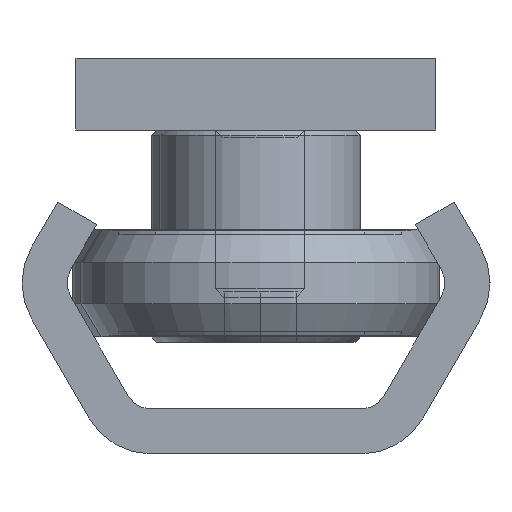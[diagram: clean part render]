
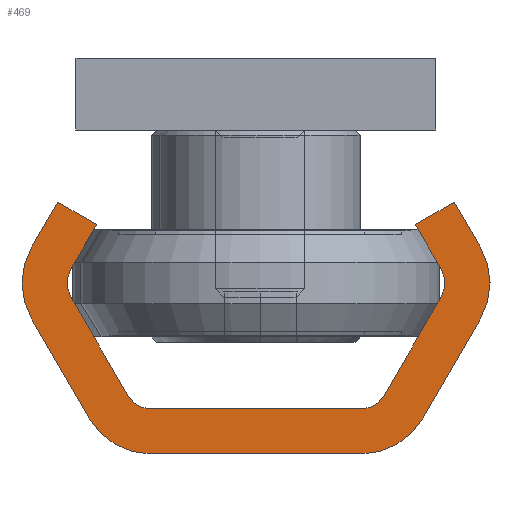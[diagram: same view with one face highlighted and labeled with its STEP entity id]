
A CAD part, left-side view. The second image highlights one B-rep face of the part: STEP entity #469.
In plain terms, the highlighted planar face has unit normal (-1, 0, 0).
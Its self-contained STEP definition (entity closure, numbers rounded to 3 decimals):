
#469 = ADVANCED_FACE( '', ( #1011 ), #1012, .F. );
#1011 = FACE_OUTER_BOUND( '', #1803, .T. );
#1012 = PLANE( '', #1804 );
#1803 = EDGE_LOOP( '', ( #2961, #2962, #2963, #2964, #2965, #2966, #2967, #2968, #2969, #2970, #2971, #2972, #2973, #2974, #2975, #2976, #2977, #2978, #2979, #2980 ) );
#1804 = AXIS2_PLACEMENT_3D( '', #2981, #2982, #2983 );
#2961 = ORIENTED_EDGE( '', *, *, #4124, .F. );
#2962 = ORIENTED_EDGE( '', *, *, #3933, .F. );
#2963 = ORIENTED_EDGE( '', *, *, #4125, .F. );
#2964 = ORIENTED_EDGE( '', *, *, #4061, .F. );
#2965 = ORIENTED_EDGE( '', *, *, #4126, .F. );
#2966 = ORIENTED_EDGE( '', *, *, #4009, .F. );
#2967 = ORIENTED_EDGE( '', *, *, #4127, .F. );
#2968 = ORIENTED_EDGE( '', *, *, #4128, .T. );
#2969 = ORIENTED_EDGE( '', *, *, #4129, .F. );
#2970 = ORIENTED_EDGE( '', *, *, #4056, .T. );
#2971 = ORIENTED_EDGE( '', *, *, #4130, .F. );
#2972 = ORIENTED_EDGE( '', *, *, #4032, .T. );
#2973 = ORIENTED_EDGE( '', *, *, #4131, .F. );
#2974 = ORIENTED_EDGE( '', *, *, #4132, .T. );
#2975 = ORIENTED_EDGE( '', *, *, #4133, .F. );
#2976 = ORIENTED_EDGE( '', *, *, #3956, .F. );
#2977 = ORIENTED_EDGE( '', *, *, #4052, .F. );
#2978 = ORIENTED_EDGE( '', *, *, #4134, .F. );
#2979 = ORIENTED_EDGE( '', *, *, #4023, .F. );
#2980 = ORIENTED_EDGE( '', *, *, #3896, .F. );
#2981 = CARTESIAN_POINT( '', ( 0., -5.825, -4. ) );
#2982 = DIRECTION( '', ( 1., 0., 0. ) );
#2983 = DIRECTION( '', ( 0., 0., -1. ) );
#3896 = EDGE_CURVE( '', #4436, #4437, #4438, .T. );
#3933 = EDGE_CURVE( '', #4499, #4500, #4501, .T. );
#3956 = EDGE_CURVE( '', #4538, #4539, #4540, .T. );
#4009 = EDGE_CURVE( '', #4621, #4622, #4623, .T. );
#4023 = EDGE_CURVE( '', #4437, #4645, #4646, .T. );
#4032 = EDGE_CURVE( '', #4658, #4659, #4660, .T. );
#4052 = EDGE_CURVE( '', #4693, #4538, #4694, .T. );
#4056 = EDGE_CURVE( '', #4699, #4700, #4701, .T. );
#4061 = EDGE_CURVE( '', #4708, #4709, #4710, .T. );
#4124 = EDGE_CURVE( '', #4500, #4436, #4807, .T. );
#4125 = EDGE_CURVE( '', #4709, #4499, #4808, .T. );
#4126 = EDGE_CURVE( '', #4622, #4708, #4809, .T. );
#4127 = EDGE_CURVE( '', #4810, #4621, #4811, .T. );
#4128 = EDGE_CURVE( '', #4810, #4812, #4813, .T. );
#4129 = EDGE_CURVE( '', #4699, #4812, #4814, .T. );
#4130 = EDGE_CURVE( '', #4658, #4700, #4815, .T. );
#4131 = EDGE_CURVE( '', #4816, #4659, #4817, .T. );
#4132 = EDGE_CURVE( '', #4816, #4818, #4819, .T. );
#4133 = EDGE_CURVE( '', #4539, #4818, #4820, .T. );
#4134 = EDGE_CURVE( '', #4645, #4693, #4821, .T. );
#4436 = VERTEX_POINT( '', #5224 );
#4437 = VERTEX_POINT( '', #5225 );
#4438 = CIRCLE( '', #5226, 4. );
#4499 = VERTEX_POINT( '', #5297 );
#4500 = VERTEX_POINT( '', #5298 );
#4501 = CIRCLE( '', #5299, 4. );
#4538 = VERTEX_POINT( '', #5343 );
#4539 = VERTEX_POINT( '', #5344 );
#4540 = LINE( '', #5345, #5346 );
#4621 = VERTEX_POINT( '', #5440 );
#4622 = VERTEX_POINT( '', #5441 );
#4623 = LINE( '', #5442, #5443 );
#4645 = VERTEX_POINT( '', #5468 );
#4646 = LINE( '', #5469, #5470 );
#4658 = VERTEX_POINT( '', #5485 );
#4659 = VERTEX_POINT( '', #5486 );
#4660 = CIRCLE( '', #5487, 1.5 );
#4693 = VERTEX_POINT( '', #5525 );
#4694 = LINE( '', #5526, #5527 );
#4699 = VERTEX_POINT( '', #5534 );
#4700 = VERTEX_POINT( '', #5535 );
#4701 = CIRCLE( '', #5536, 1.5 );
#4708 = VERTEX_POINT( '', #5545 );
#4709 = VERTEX_POINT( '', #5546 );
#4710 = CIRCLE( '', #5547, 4. );
#4807 = LINE( '', #5662, #5663 );
#4808 = LINE( '', #5664, #5665 );
#4809 = LINE( '', #5666, #5667 );
#4810 = VERTEX_POINT( '', #5668 );
#4811 = LINE( '', #5669, #5670 );
#4812 = VERTEX_POINT( '', #5671 );
#4813 = CIRCLE( '', #5672, 1.5 );
#4814 = LINE( '', #5673, #5674 );
#4815 = LINE( '', #5675, #5676 );
#4816 = VERTEX_POINT( '', #5677 );
#4817 = LINE( '', #5678, #5679 );
#4818 = VERTEX_POINT( '', #5680 );
#4819 = CIRCLE( '', #5681, 1.5 );
#4820 = LINE( '', #5682, #5683 );
#4821 = CIRCLE( '', #5684, 4. );
#5224 = CARTESIAN_POINT( '', ( 0., -5.825, 0. ) );
#5225 = CARTESIAN_POINT( '', ( 0., -9.289, -2. ) );
#5226 = AXIS2_PLACEMENT_3D( '', #6143, #6144, #6145 );
#5297 = CARTESIAN_POINT( '', ( 0., 9.289, -2. ) );
#5298 = CARTESIAN_POINT( '', ( 0., 5.825, 0. ) );
#5299 = AXIS2_PLACEMENT_3D( '', #6201, #6202, #6203 );
#5343 = CARTESIAN_POINT( '', ( 0., -11.021, -14. ) );
#5344 = CARTESIAN_POINT( '', ( 0., -8.856, -12.75 ) );
#5345 = CARTESIAN_POINT( '', ( 0., -11.021, -14. ) );
#5346 = VECTOR( '', #6238, 1000. );
#5440 = CARTESIAN_POINT( '', ( 0., 8.856, -12.75 ) );
#5441 = CARTESIAN_POINT( '', ( 0., 11.021, -14. ) );
#5442 = CARTESIAN_POINT( '', ( 0., 8.856, -12.75 ) );
#5443 = VECTOR( '', #6327, 1000. );
#5468 = CARTESIAN_POINT( '', ( 0., -12.464, -7.5 ) );
#5469 = CARTESIAN_POINT( '', ( 0., -9.289, -2. ) );
#5470 = VECTOR( '', #6349, 1000. );
#5485 = CARTESIAN_POINT( '', ( 0., -5.825, -2.5 ) );
#5486 = CARTESIAN_POINT( '', ( 0., -7.124, -3.25 ) );
#5487 = AXIS2_PLACEMENT_3D( '', #6359, #6360, #6361 );
#5525 = CARTESIAN_POINT( '', ( 0., -12.464, -11.5 ) );
#5526 = CARTESIAN_POINT( '', ( 0., -12.464, -11.5 ) );
#5527 = VECTOR( '', #6397, 1000. );
#5534 = CARTESIAN_POINT( '', ( 0., 7.124, -3.25 ) );
#5535 = CARTESIAN_POINT( '', ( 0., 5.825, -2.5 ) );
#5536 = AXIS2_PLACEMENT_3D( '', #6400, #6401, #6402 );
#5545 = CARTESIAN_POINT( '', ( 0., 12.464, -11.5 ) );
#5546 = CARTESIAN_POINT( '', ( 0., 12.464, -7.5 ) );
#5547 = AXIS2_PLACEMENT_3D( '', #6408, #6409, #6410 );
#5662 = CARTESIAN_POINT( '', ( 0., 5.825, 0. ) );
#5663 = VECTOR( '', #6516, 1000. );
#5664 = CARTESIAN_POINT( '', ( 0., 12.464, -7.5 ) );
#5665 = VECTOR( '', #6517, 1000. );
#5666 = CARTESIAN_POINT( '', ( 0., 11.021, -14. ) );
#5667 = VECTOR( '', #6518, 1000. );
#5668 = CARTESIAN_POINT( '', ( 0., 10.299, -10.25 ) );
#5669 = CARTESIAN_POINT( '', ( 0., 10.299, -10.25 ) );
#5670 = VECTOR( '', #6519, 1000. );
#5671 = CARTESIAN_POINT( '', ( 0., 10.299, -8.75 ) );
#5672 = AXIS2_PLACEMENT_3D( '', #6520, #6521, #6522 );
#5673 = CARTESIAN_POINT( '', ( 0., 7.124, -3.25 ) );
#5674 = VECTOR( '', #6523, 1000. );
#5675 = CARTESIAN_POINT( '', ( 0., -5.825, -2.5 ) );
#5676 = VECTOR( '', #6524, 1000. );
#5677 = CARTESIAN_POINT( '', ( 0., -10.299, -8.75 ) );
#5678 = CARTESIAN_POINT( '', ( 0., -10.299, -8.75 ) );
#5679 = VECTOR( '', #6525, 1000. );
#5680 = CARTESIAN_POINT( '', ( 0., -10.299, -10.25 ) );
#5681 = AXIS2_PLACEMENT_3D( '', #6526, #6527, #6528 );
#5682 = CARTESIAN_POINT( '', ( 0., -8.856, -12.75 ) );
#5683 = VECTOR( '', #6529, 1000. );
#5684 = AXIS2_PLACEMENT_3D( '', #6530, #6531, #6532 );
#6143 = CARTESIAN_POINT( '', ( 0., -5.825, -4. ) );
#6144 = DIRECTION( '', ( 1., 0., 0. ) );
#6145 = DIRECTION( '', ( 0., 0., -1. ) );
#6201 = CARTESIAN_POINT( '', ( 0., 5.825, -4. ) );
#6202 = DIRECTION( '', ( 1., 0., 0. ) );
#6203 = DIRECTION( '', ( 0., 0., -1. ) );
#6238 = DIRECTION( '', ( 0., 0.866, 0.5 ) );
#6327 = DIRECTION( '', ( 0., 0.866, -0.5 ) );
#6349 = DIRECTION( '', ( 0., -0.5, -0.866 ) );
#6359 = CARTESIAN_POINT( '', ( 0., -5.825, -4. ) );
#6360 = DIRECTION( '', ( 1., 0., 0. ) );
#6361 = DIRECTION( '', ( 0., 0., -1. ) );
#6397 = DIRECTION( '', ( 0., 0.5, -0.866 ) );
#6400 = CARTESIAN_POINT( '', ( 0., 5.825, -4. ) );
#6401 = DIRECTION( '', ( 1., 0., 0. ) );
#6402 = DIRECTION( '', ( 0., 0., -1. ) );
#6408 = CARTESIAN_POINT( '', ( 0., 9., -9.5 ) );
#6409 = DIRECTION( '', ( 1., 0., 0. ) );
#6410 = DIRECTION( '', ( 0., 0., -1. ) );
#6516 = DIRECTION( '', ( 0., -1., 0. ) );
#6517 = DIRECTION( '', ( 0., -0.5, 0.866 ) );
#6518 = DIRECTION( '', ( 0., 0.5, 0.866 ) );
#6519 = DIRECTION( '', ( 0., -0.5, -0.866 ) );
#6520 = CARTESIAN_POINT( '', ( 0., 9., -9.5 ) );
#6521 = DIRECTION( '', ( 1., 0., 0. ) );
#6522 = DIRECTION( '', ( 0., 0., -1. ) );
#6523 = DIRECTION( '', ( 0., 0.5, -0.866 ) );
#6524 = DIRECTION( '', ( 0., 1., 0. ) );
#6525 = DIRECTION( '', ( 0., 0.5, 0.866 ) );
#6526 = CARTESIAN_POINT( '', ( 0., -9., -9.5 ) );
#6527 = DIRECTION( '', ( 1., 0., 0. ) );
#6528 = DIRECTION( '', ( 0., 0., -1. ) );
#6529 = DIRECTION( '', ( 0., -0.5, 0.866 ) );
#6530 = CARTESIAN_POINT( '', ( 0., -9., -9.5 ) );
#6531 = DIRECTION( '', ( 1., 0., 0. ) );
#6532 = DIRECTION( '', ( 0., 0., -1. ) );
